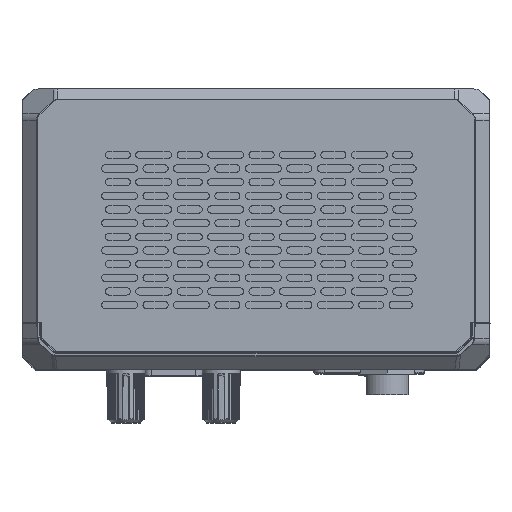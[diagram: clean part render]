
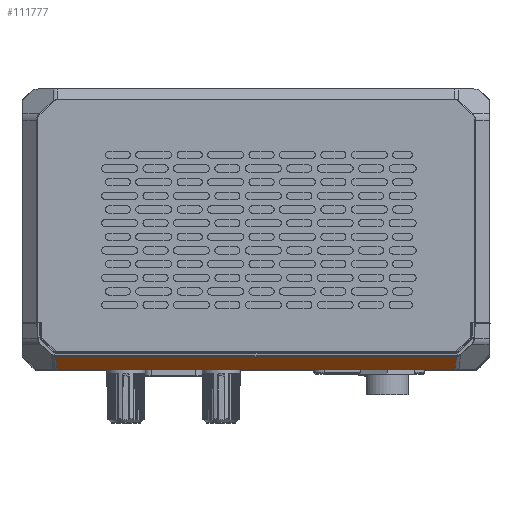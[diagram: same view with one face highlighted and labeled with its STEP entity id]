
A CAD part, top view. The second image highlights one B-rep face of the part: STEP entity #111777.
In plain terms, the highlighted planar face has unit normal (0, -0.693, 0.721).
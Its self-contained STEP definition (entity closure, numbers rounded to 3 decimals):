
#22288=DIRECTION('',(-0.093,-0.718,-0.69));
#22289=VECTOR('',#22288,4.931);
#22290=CARTESIAN_POINT('',(60.294,-63.461,
153.478));
#22291=LINE('',#22290,#22289);
#22292=DIRECTION('',(-1.,0.,0.));
#22293=VECTOR('',#22292,110.66);
#22294=CARTESIAN_POINT('',(59.838,-67.,
150.075));
#22295=LINE('',#22294,#22293);
#22296=DIRECTION('',(-0.093,0.718,0.69));
#22297=VECTOR('',#22296,4.931);
#22298=CARTESIAN_POINT('',(-50.822,-67.,
150.075));
#22299=LINE('',#22298,#22297);
#22308=CARTESIAN_POINT('',(60.294,-63.461,
153.478));
#22310=DIRECTION('',(-1.,0.,0.));
#22311=VECTOR('',#22310,111.573);
#22312=CARTESIAN_POINT('',(60.294,-63.461,
153.478));
#22313=LINE('',#22312,#22311);
#22356=CARTESIAN_POINT('',(-51.279,-63.461,
153.478));
#22358=CARTESIAN_POINT('',(-50.822,-67.,
150.075));
#82748=VERTEX_POINT('',#22358);
#82749=CARTESIAN_POINT('',(59.838,-67.,
150.075));
#82750=VERTEX_POINT('',#82749);
#82855=VERTEX_POINT('',#22356);
#82856=VERTEX_POINT('',#22308);
#111764=CARTESIAN_POINT('',(-51.913,-67.,
150.075));
#111765=DIRECTION('',(0.,-0.693,0.721));
#111766=DIRECTION('',(1.,0.,0.));
#111767=AXIS2_PLACEMENT_3D('',#111764,#111765,#111766);
#111768=PLANE('',#111767);
#111770=ORIENTED_EDGE('',*,*,#111769,.F.);
#111771=ORIENTED_EDGE('',*,*,#111641,.T.);
#111772=ORIENTED_EDGE('',*,*,#110167,.T.);
#111774=ORIENTED_EDGE('',*,*,#111773,.T.);
#111775=EDGE_LOOP('',(#111770,#111771,#111772,#111774));
#111776=FACE_OUTER_BOUND('',#111775,.F.);
#111777=ADVANCED_FACE('',(#111776),#111768,.T.);
#110167=EDGE_CURVE('',#82750,#82748,#22295,.T.);
#111641=EDGE_CURVE('',#82856,#82750,#22291,.T.);
#111769=EDGE_CURVE('',#82856,#82855,#22313,.T.);
#111773=EDGE_CURVE('',#82748,#82855,#22299,.T.);
